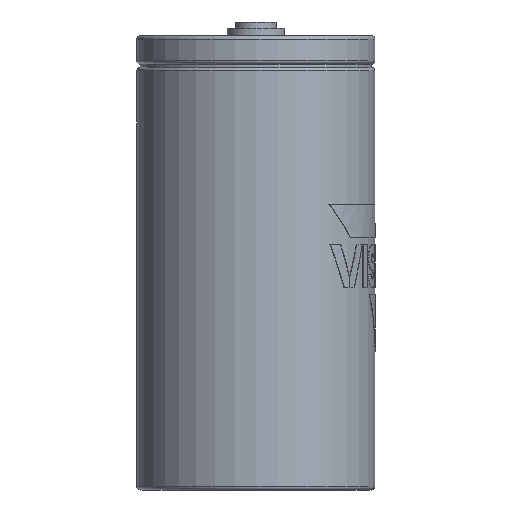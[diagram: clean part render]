
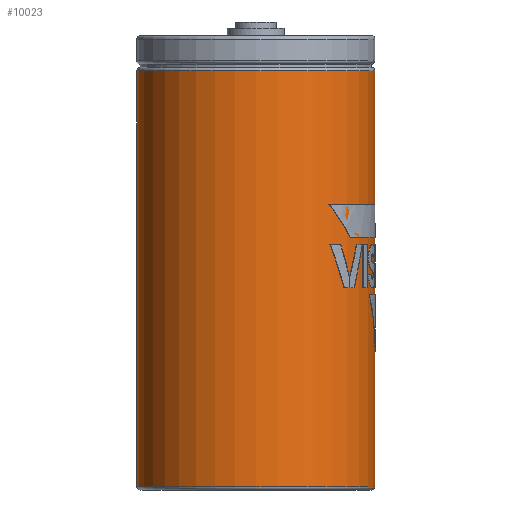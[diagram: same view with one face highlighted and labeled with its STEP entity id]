
A CAD part, left-side view. The second image highlights one B-rep face of the part: STEP entity #10023.
In plain terms, the highlighted cylindrical face has radius 38.2 mm (diameter 76.4 mm), a full revolution.
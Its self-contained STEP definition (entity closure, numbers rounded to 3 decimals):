
#9956 = TOROIDAL_SURFACE('',#9957,37.1,1.1);
#9957 = AXIS2_PLACEMENT_3D('',#9958,#9959,#9960);
#9958 = CARTESIAN_POINT('',(0.,0.,-143.6));
#9959 = DIRECTION('',(0.,0.,1.));
#9960 = DIRECTION('',(1.,0.,0.));
#9973 = VERTEX_POINT('',#9974);
#9974 = CARTESIAN_POINT('',(38.2,0.,-143.6));
#9996 = EDGE_CURVE('',#9973,#9973,#9997,.T.);
#9997 = SURFACE_CURVE('',#9998,(#10003,#10010),.PCURVE_S1.);
#9998 = CIRCLE('',#9999,38.2);
#9999 = AXIS2_PLACEMENT_3D('',#10000,#10001,#10002);
#10000 = CARTESIAN_POINT('',(0.,0.,-143.6));
#10001 = DIRECTION('',(-0.,0.,1.));
#10002 = DIRECTION('',(1.,0.,0.));
#10003 = PCURVE('',#9956,#10004);
#10004 = DEFINITIONAL_REPRESENTATION('',(#10005),#10009);
#10005 = LINE('',#10006,#10007);
#10006 = CARTESIAN_POINT('',(0.,6.283));
#10007 = VECTOR('',#10008,1.);
#10008 = DIRECTION('',(1.,0.));
#10009 = ( GEOMETRIC_REPRESENTATION_CONTEXT(2) 
PARAMETRIC_REPRESENTATION_CONTEXT() REPRESENTATION_CONTEXT('2D SPACE',''
  ) );
#10010 = PCURVE('',#10011,#10016);
#10011 = CYLINDRICAL_SURFACE('',#10012,38.2);
#10012 = AXIS2_PLACEMENT_3D('',#10013,#10014,#10015);
#10013 = CARTESIAN_POINT('',(0.,0.,-143.6));
#10014 = DIRECTION('',(0.,0.,1.));
#10015 = DIRECTION('',(1.,0.,0.));
#10016 = DEFINITIONAL_REPRESENTATION('',(#10017),#10021);
#10017 = LINE('',#10018,#10019);
#10018 = CARTESIAN_POINT('',(0.,0.));
#10019 = VECTOR('',#10020,1.);
#10020 = DIRECTION('',(1.,0.));
#10021 = ( GEOMETRIC_REPRESENTATION_CONTEXT(2) 
PARAMETRIC_REPRESENTATION_CONTEXT() REPRESENTATION_CONTEXT('2D SPACE',''
  ) );
#10023 = ADVANCED_FACE('',(#10024),#10011,.T.);
#10024 = FACE_BOUND('',#10025,.T.);
#10025 = EDGE_LOOP('',(#10026,#10027,#10050,#10077));
#10026 = ORIENTED_EDGE('',*,*,#9996,.T.);
#10027 = ORIENTED_EDGE('',*,*,#10028,.T.);
#10028 = EDGE_CURVE('',#9973,#10029,#10031,.T.);
#10029 = VERTEX_POINT('',#10030);
#10030 = CARTESIAN_POINT('',(38.2,0.,-10.2));
#10031 = SEAM_CURVE('',#10032,(#10036,#10043),.PCURVE_S1.);
#10032 = LINE('',#10033,#10034);
#10033 = CARTESIAN_POINT('',(38.2,0.,-143.6));
#10034 = VECTOR('',#10035,1.);
#10035 = DIRECTION('',(0.,0.,1.));
#10036 = PCURVE('',#10011,#10037);
#10037 = DEFINITIONAL_REPRESENTATION('',(#10038),#10042);
#10038 = LINE('',#10039,#10040);
#10039 = CARTESIAN_POINT('',(0.,0.));
#10040 = VECTOR('',#10041,1.);
#10041 = DIRECTION('',(0.,1.));
#10042 = ( GEOMETRIC_REPRESENTATION_CONTEXT(2) 
PARAMETRIC_REPRESENTATION_CONTEXT() REPRESENTATION_CONTEXT('2D SPACE',''
  ) );
#10043 = PCURVE('',#10011,#10044);
#10044 = DEFINITIONAL_REPRESENTATION('',(#10045),#10049);
#10045 = LINE('',#10046,#10047);
#10046 = CARTESIAN_POINT('',(6.283,0.));
#10047 = VECTOR('',#10048,1.);
#10048 = DIRECTION('',(0.,1.));
#10049 = ( GEOMETRIC_REPRESENTATION_CONTEXT(2) 
PARAMETRIC_REPRESENTATION_CONTEXT() REPRESENTATION_CONTEXT('2D SPACE',''
  ) );
#10050 = ORIENTED_EDGE('',*,*,#10051,.F.);
#10051 = EDGE_CURVE('',#10029,#10029,#10052,.T.);
#10052 = SURFACE_CURVE('',#10053,(#10058,#10065),.PCURVE_S1.);
#10053 = CIRCLE('',#10054,38.2);
#10054 = AXIS2_PLACEMENT_3D('',#10055,#10056,#10057);
#10055 = CARTESIAN_POINT('',(0.,0.,-10.2));
#10056 = DIRECTION('',(-0.,0.,1.));
#10057 = DIRECTION('',(1.,0.,0.));
#10058 = PCURVE('',#10011,#10059);
#10059 = DEFINITIONAL_REPRESENTATION('',(#10060),#10064);
#10060 = LINE('',#10061,#10062);
#10061 = CARTESIAN_POINT('',(0.,133.4));
#10062 = VECTOR('',#10063,1.);
#10063 = DIRECTION('',(1.,0.));
#10064 = ( GEOMETRIC_REPRESENTATION_CONTEXT(2) 
PARAMETRIC_REPRESENTATION_CONTEXT() REPRESENTATION_CONTEXT('2D SPACE',''
  ) );
#10065 = PCURVE('',#10066,#10071);
#10066 = TOROIDAL_SURFACE('',#10067,37.1,1.1);
#10067 = AXIS2_PLACEMENT_3D('',#10068,#10069,#10070);
#10068 = CARTESIAN_POINT('',(0.,0.,-10.2));
#10069 = DIRECTION('',(0.,0.,1.));
#10070 = DIRECTION('',(1.,0.,0.));
#10071 = DEFINITIONAL_REPRESENTATION('',(#10072),#10076);
#10072 = LINE('',#10073,#10074);
#10073 = CARTESIAN_POINT('',(0.,0.));
#10074 = VECTOR('',#10075,1.);
#10075 = DIRECTION('',(1.,0.));
#10076 = ( GEOMETRIC_REPRESENTATION_CONTEXT(2) 
PARAMETRIC_REPRESENTATION_CONTEXT() REPRESENTATION_CONTEXT('2D SPACE',''
  ) );
#10077 = ORIENTED_EDGE('',*,*,#10028,.F.);
